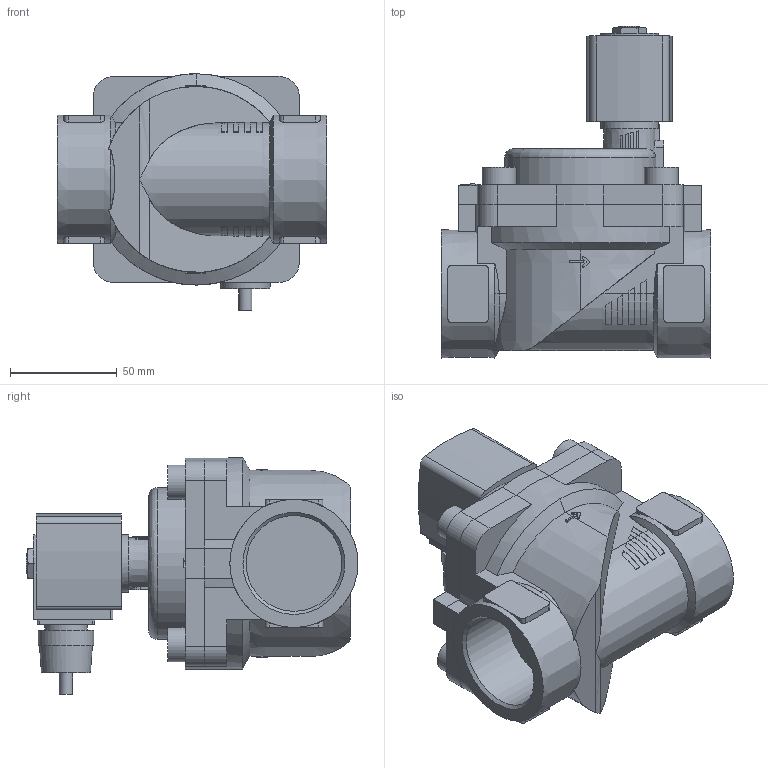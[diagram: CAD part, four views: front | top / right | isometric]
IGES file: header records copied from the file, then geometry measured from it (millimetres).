
Start section: Data from Parasolid IGES Translator 26.0.171, Copyright(c) 2006 Siemens PLM Software. All Rights Reserved.
Global section: file name: 6281-384761-2_2-Way_Solenoid_Valve__Servo-assisted__General_Purpose.igs; native system: By Siemens PLM Incorporated; preprocessor: XPlus GENERIC/IGES 26.0.171; author: Noname; organization: Noname; date: 20240904.151438; units: millimetre
Bounding box: 126 x 155.5 x 110.8 mm (x, y, z)
Surface area: 97033.1 mm2 (no closed solid volume)
Topology: 0 solids, 0 shells, 323 faces, 1698 edges, 1672 vertices
Faces by surface type: extrusion 190, revolution 133
